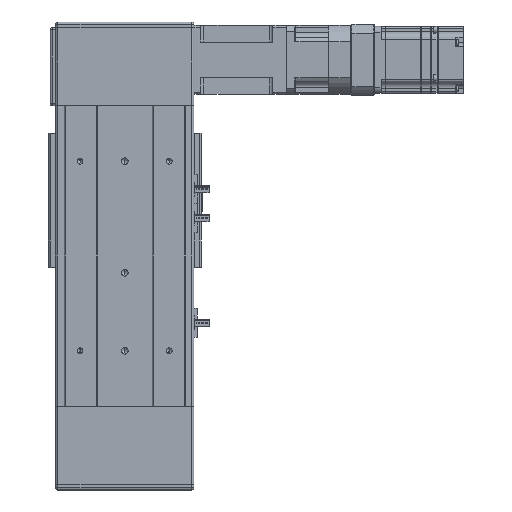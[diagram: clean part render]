
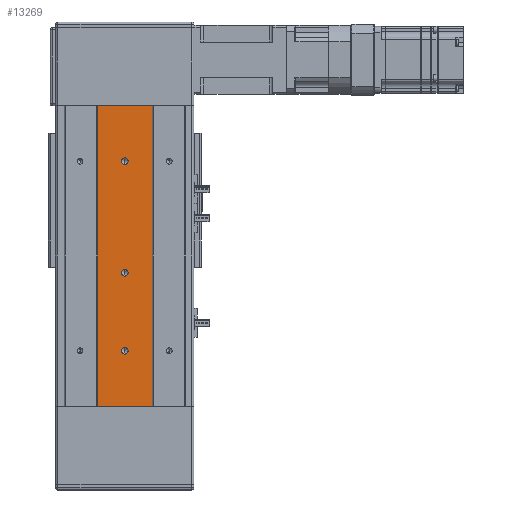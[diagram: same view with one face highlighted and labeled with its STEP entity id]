
A CAD part, front view. The second image highlights one B-rep face of the part: STEP entity #13269.
In plain terms, the highlighted planar face has unit normal (0, -1, 0).
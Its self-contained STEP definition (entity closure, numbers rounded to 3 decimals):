
#373 = FACE_BOUND ( 'NONE', #50197, .T. ) ;
#421 = FACE_BOUND ( 'NONE', #50262, .T. ) ;
#424 = FACE_OUTER_BOUND ( 'NONE', #56098, .T. ) ;
#458 = FACE_BOUND ( 'NONE', #56118, .T. ) ;
#2580 = VERTEX_POINT ( 'NONE', #56258 ) ;
#2587 = VERTEX_POINT ( 'NONE', #56256 ) ;
#2607 = VERTEX_POINT ( 'NONE', #56267 ) ;
#2608 = VERTEX_POINT ( 'NONE', #56288 ) ;
#2618 = VERTEX_POINT ( 'NONE', #56283 ) ;
#2650 = VERTEX_POINT ( 'NONE', #56356 ) ;
#2776 = VERTEX_POINT ( 'NONE', #56490 ) ;
#2793 = VERTEX_POINT ( 'NONE', #56471 ) ;
#2795 = VERTEX_POINT ( 'NONE', #56454 ) ;
#2826 = VERTEX_POINT ( 'NONE', #56527 ) ;
#7406 = ORIENTED_EDGE ( 'NONE', *, *, #40384, .T. ) ;
#7433 = ORIENTED_EDGE ( 'NONE', *, *, #40047, .T. ) ;
#7459 = ORIENTED_EDGE ( 'NONE', *, *, #40509, .T. ) ;
#7469 = ORIENTED_EDGE ( 'NONE', *, *, #40585, .T. ) ;
#7472 = ORIENTED_EDGE ( 'NONE', *, *, #40515, .T. ) ;
#7474 = ORIENTED_EDGE ( 'NONE', *, *, #40005, .T. ) ;
#7475 = ORIENTED_EDGE ( 'NONE', *, *, #40533, .T. ) ;
#7492 = ORIENTED_EDGE ( 'NONE', *, *, #40520, .F. ) ;
#7498 = ORIENTED_EDGE ( 'NONE', *, *, #40554, .F. ) ;
#7512 = ORIENTED_EDGE ( 'NONE', *, *, #40021, .T. ) ;
#10456 = CARTESIAN_POINT ( 'NONE',  ( 0., -42., -85. ) ) ;
#10470 = DIRECTION ( 'NONE',  ( 0., 0., 1. ) ) ;
#10473 = DIRECTION ( 'NONE',  ( 0., 1., 0. ) ) ;
#10754 = DIRECTION ( 'NONE',  ( 0., 1., 0. ) ) ;
#10758 = DIRECTION ( 'NONE',  ( 0., 0., 1. ) ) ;
#10764 = CARTESIAN_POINT ( 'NONE',  ( 0., -42., -85. ) ) ;
#10767 = CARTESIAN_POINT ( 'NONE',  ( 0., -42., -15. ) ) ;
#10768 = DIRECTION ( 'NONE',  ( 0., 1., 0. ) ) ;
#10770 = DIRECTION ( 'NONE',  ( 0., 0., 1. ) ) ;
#10782 = DIRECTION ( 'NONE',  ( 0., 0., 1. ) ) ;
#10797 = DIRECTION ( 'NONE',  ( 0., 1., 0. ) ) ;
#10800 = CARTESIAN_POINT ( 'NONE',  ( 0., -42., 85. ) ) ;
#11114 = CARTESIAN_POINT ( 'NONE',  ( 0., -42., 85. ) ) ;
#11116 = DIRECTION ( 'NONE',  ( 0., 0., 1. ) ) ;
#11128 = DIRECTION ( 'NONE',  ( 0., 1., 0. ) ) ;
#11270 = CARTESIAN_POINT ( 'NONE',  ( 0., -42., -135. ) ) ;
#11271 = CARTESIAN_POINT ( 'NONE',  ( -24.5, -42., 135. ) ) ;
#11272 = DIRECTION ( 'NONE',  ( 0., 0., -1. ) ) ;
#11273 = CARTESIAN_POINT ( 'NONE',  ( 0., -42., -15. ) ) ;
#11276 = DIRECTION ( 'NONE',  ( 0., 0., 1. ) ) ;
#11277 = CARTESIAN_POINT ( 'NONE',  ( 24.5, -42., 135. ) ) ;
#11283 = DIRECTION ( 'NONE',  ( 0., 1., 0. ) ) ;
#11288 = DIRECTION ( 'NONE',  ( 0., 0., -1. ) ) ;
#11305 = DIRECTION ( 'NONE',  ( 1., 0., 0. ) ) ;
#11338 = DIRECTION ( 'NONE',  ( 1., 0., 0. ) ) ;
#11341 = CARTESIAN_POINT ( 'NONE',  ( 0., -42., 135. ) ) ;
#13269 = ADVANCED_FACE ( 'NONE', ( #421, #458, #373, #424 ), #23269, .F. ) ;
#20944 = AXIS2_PLACEMENT_3D ( 'NONE', #23297, #23252, #23268 ) ;
#23252 = DIRECTION ( 'NONE',  ( 0., 1., 0. ) ) ;
#23268 = DIRECTION ( 'NONE',  ( 0., 0., 1. ) ) ;
#23269 = PLANE ( 'NONE',  #20944 ) ;
#23297 = CARTESIAN_POINT ( 'NONE',  ( 0., -42., 135. ) ) ;
#27633 = CIRCLE ( 'NONE', #46536, 3. ) ;
#27658 = CIRCLE ( 'NONE', #46501, 3. ) ;
#27668 = CIRCLE ( 'NONE', #46502, 3. ) ;
#27953 = CIRCLE ( 'NONE', #46598, 3. ) ;
#28077 = VECTOR ( 'NONE', #11272, 1000. ) ;
#28079 = VECTOR ( 'NONE', #11338, 1000. ) ;
#28080 = CIRCLE ( 'NONE', #46578, 3. ) ;
#28090 = VECTOR ( 'NONE', #11305, 1000. ) ;
#28092 = LINE ( 'NONE', #11341, #28079 ) ;
#28094 = VECTOR ( 'NONE', #11288, 1000. ) ;
#28098 = LINE ( 'NONE', #11270, #28090 ) ;
#28110 = LINE ( 'NONE', #11277, #28094 ) ;
#28130 = LINE ( 'NONE', #11271, #28077 ) ;
#28532 = CIRCLE ( 'NONE', #46547, 3. ) ;
#40005 = EDGE_CURVE ( 'NONE', #2607, #2618, #27658, .T. ) ;
#40021 = EDGE_CURVE ( 'NONE', #2650, #2580, #27668, .T. ) ;
#40047 = EDGE_CURVE ( 'NONE', #2608, #2587, #27633, .T. ) ;
#40384 = EDGE_CURVE ( 'NONE', #2587, #2608, #27953, .T. ) ;
#40509 = EDGE_CURVE ( 'NONE', #2776, #2793, #28130, .T. ) ;
#40515 = EDGE_CURVE ( 'NONE', #2580, #2650, #28080, .T. ) ;
#40520 = EDGE_CURVE ( 'NONE', #2795, #2826, #28110, .T. ) ;
#40533 = EDGE_CURVE ( 'NONE', #2793, #2826, #28098, .T. ) ;
#40554 = EDGE_CURVE ( 'NONE', #2776, #2795, #28092, .T. ) ;
#40585 = EDGE_CURVE ( 'NONE', #2618, #2607, #28532, .T. ) ;
#46501 = AXIS2_PLACEMENT_3D ( 'NONE', #10764, #10754, #10770 ) ;
#46502 = AXIS2_PLACEMENT_3D ( 'NONE', #10767, #10768, #10758 ) ;
#46536 = AXIS2_PLACEMENT_3D ( 'NONE', #10800, #10797, #10782 ) ;
#46547 = AXIS2_PLACEMENT_3D ( 'NONE', #10456, #10473, #10470 ) ;
#46578 = AXIS2_PLACEMENT_3D ( 'NONE', #11273, #11283, #11276 ) ;
#46598 = AXIS2_PLACEMENT_3D ( 'NONE', #11114, #11128, #11116 ) ;
#50197 = EDGE_LOOP ( 'NONE', ( #7474, #7469 ) ) ;
#50262 = EDGE_LOOP ( 'NONE', ( #7433, #7406 ) ) ;
#56098 = EDGE_LOOP ( 'NONE', ( #7475, #7492, #7498, #7459 ) ) ;
#56118 = EDGE_LOOP ( 'NONE', ( #7512, #7472 ) ) ;
#56256 = CARTESIAN_POINT ( 'NONE',  ( 0., -42., 88. ) ) ;
#56258 = CARTESIAN_POINT ( 'NONE',  ( 0., -42., -12. ) ) ;
#56267 = CARTESIAN_POINT ( 'NONE',  ( 0., -42., -88. ) ) ;
#56283 = CARTESIAN_POINT ( 'NONE',  ( 0., -42., -82. ) ) ;
#56288 = CARTESIAN_POINT ( 'NONE',  ( 0., -42., 82. ) ) ;
#56356 = CARTESIAN_POINT ( 'NONE',  ( 0., -42., -18. ) ) ;
#56454 = CARTESIAN_POINT ( 'NONE',  ( 24.5, -42., 135. ) ) ;
#56471 = CARTESIAN_POINT ( 'NONE',  ( -24.5, -42., -135. ) ) ;
#56490 = CARTESIAN_POINT ( 'NONE',  ( -24.5, -42., 135. ) ) ;
#56527 = CARTESIAN_POINT ( 'NONE',  ( 24.5, -42., -135. ) ) ;
